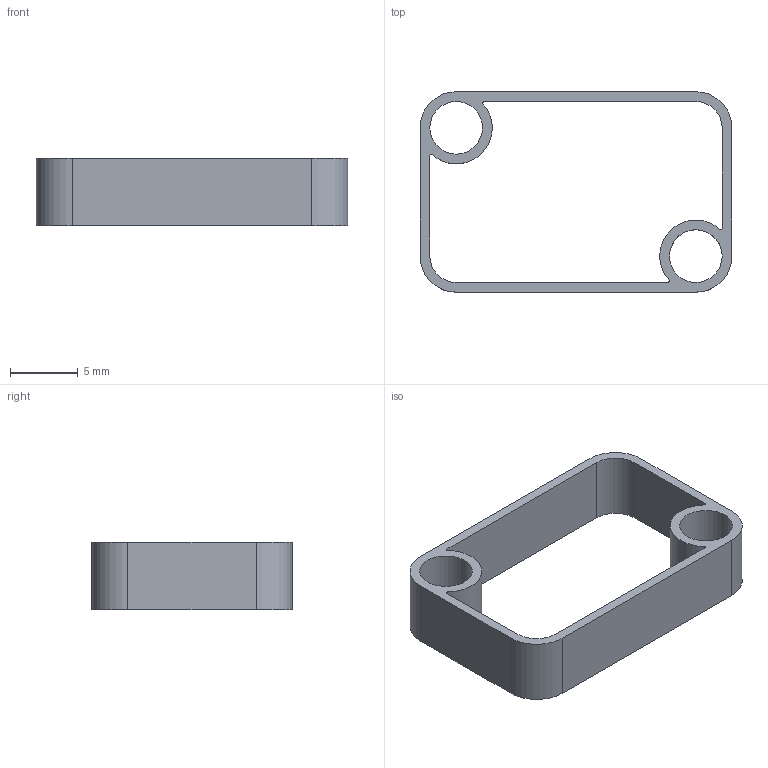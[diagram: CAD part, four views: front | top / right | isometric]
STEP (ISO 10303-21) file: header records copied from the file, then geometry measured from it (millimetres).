
FILE_DESCRIPTION((''),'2;1');
FILE_NAME('T:\MiscConcepts\MISC_ULTIMAKER_OBJECTS\Ultimaker_Parts\PrintingHeadStructure\AmplifierSpacer.stp','2013-08-03T21:46:25',('Jeff Wagner'),(''),'Autodesk Inventor 2012','Autodesk Inventor 2012','');
FILE_SCHEMA(('AUTOMOTIVE_DESIGN { 1 0 10303 214 1 1 1 1 }'));
Length unit declared in the file: millimetre
Products named in the file (1): AmplifierSpacer
Bounding box: 23.09 x 14.84 x 5 mm (x, y, z)
Volume: 309 mm3; surface area: 950 mm2
Topology: 1 solids, 1 shells, 24 faces, 66 edges, 44 vertices
Faces by surface type: cylinder 14, plane 10
Full cylindrical faces by diameter (mm): 3.9 x2
Entity records: 806 total; most frequent: DIRECTION 142, CARTESIAN_POINT 133, ORIENTED_EDGE 128, EDGE_CURVE 64, AXIS2_PLACEMENT_3D 53, VERTEX_POINT 44, VECTOR 36, LINE 36
